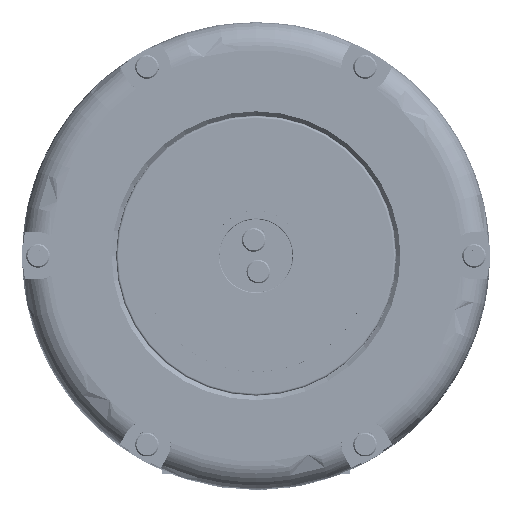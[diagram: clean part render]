
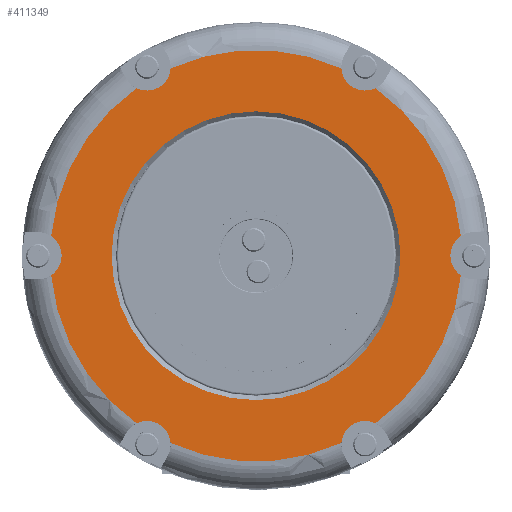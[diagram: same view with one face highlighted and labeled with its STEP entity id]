
A CAD part, top view. The second image highlights one B-rep face of the part: STEP entity #411349.
In plain terms, the highlighted planar face has unit normal (0, 0, 1).
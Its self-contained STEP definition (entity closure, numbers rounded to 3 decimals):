
#6227=FACE_BOUND('',#65021,.T.);
#24316=PLANE('',#441260);
#41247=FACE_OUTER_BOUND('',#65020,.T.);
#65020=EDGE_LOOP('',(#308043,#308044,#308045,#308046,#308047,#308048,#308049,
#308050,#308051,#308052,#308053,#308054));
#65021=EDGE_LOOP('',(#308055));
#179877=CIRCLE('',#441156,47.8);
#179880=CIRCLE('',#441160,47.8);
#179885=CIRCLE('',#441166,47.8);
#179888=CIRCLE('',#441170,47.8);
#179893=CIRCLE('',#441176,47.8);
#179896=CIRCLE('',#441180,47.8);
#179901=CIRCLE('',#441198,5.5);
#179941=CIRCLE('',#441256,33.54);
#179944=CIRCLE('',#441261,5.5);
#179945=CIRCLE('',#441262,5.5);
#179946=CIRCLE('',#441263,5.5);
#179947=CIRCLE('',#441264,5.5);
#179948=CIRCLE('',#441265,5.5);
#198181=VERTEX_POINT('',#615454);
#198182=VERTEX_POINT('',#615463);
#198187=VERTEX_POINT('',#615504);
#198188=VERTEX_POINT('',#615513);
#198193=VERTEX_POINT('',#615556);
#198194=VERTEX_POINT('',#615565);
#198199=VERTEX_POINT('',#615606);
#198200=VERTEX_POINT('',#615615);
#198205=VERTEX_POINT('',#615658);
#198206=VERTEX_POINT('',#615667);
#198211=VERTEX_POINT('',#615708);
#198212=VERTEX_POINT('',#615717);
#198254=VERTEX_POINT('',#615889);
#240114=EDGE_CURVE('',#198181,#198182,#179877,.T.);
#240121=EDGE_CURVE('',#198187,#198188,#179880,.T.);
#240130=EDGE_CURVE('',#198193,#198194,#179885,.T.);
#240137=EDGE_CURVE('',#198199,#198200,#179888,.T.);
#240146=EDGE_CURVE('',#198205,#198206,#179893,.T.);
#240153=EDGE_CURVE('',#198211,#198212,#179896,.T.);
#240184=EDGE_CURVE('',#198199,#198194,#179901,.T.);
#240234=EDGE_CURVE('',#198254,#198254,#179941,.T.);
#240239=EDGE_CURVE('',#198187,#198212,#179944,.T.);
#240240=EDGE_CURVE('',#198211,#198206,#179945,.T.);
#240241=EDGE_CURVE('',#198205,#198182,#179946,.T.);
#240242=EDGE_CURVE('',#198181,#198200,#179947,.T.);
#240243=EDGE_CURVE('',#198193,#198188,#179948,.T.);
#308043=ORIENTED_EDGE('',*,*,#240239,.T.);
#308044=ORIENTED_EDGE('',*,*,#240153,.F.);
#308045=ORIENTED_EDGE('',*,*,#240240,.T.);
#308046=ORIENTED_EDGE('',*,*,#240146,.F.);
#308047=ORIENTED_EDGE('',*,*,#240241,.T.);
#308048=ORIENTED_EDGE('',*,*,#240114,.F.);
#308049=ORIENTED_EDGE('',*,*,#240242,.T.);
#308050=ORIENTED_EDGE('',*,*,#240137,.F.);
#308051=ORIENTED_EDGE('',*,*,#240184,.T.);
#308052=ORIENTED_EDGE('',*,*,#240130,.F.);
#308053=ORIENTED_EDGE('',*,*,#240243,.T.);
#308054=ORIENTED_EDGE('',*,*,#240121,.F.);
#308055=ORIENTED_EDGE('',*,*,#240234,.F.);
#411349=ADVANCED_FACE('',(#41247,#6227),#24316,.T.);
#441156=AXIS2_PLACEMENT_3D('',#615464,#495006,#495007);
#441160=AXIS2_PLACEMENT_3D('',#615514,#495014,#495015);
#441166=AXIS2_PLACEMENT_3D('',#615566,#495026,#495027);
#441170=AXIS2_PLACEMENT_3D('',#615616,#495034,#495035);
#441176=AXIS2_PLACEMENT_3D('',#615668,#495046,#495047);
#441180=AXIS2_PLACEMENT_3D('',#615718,#495054,#495055);
#441198=AXIS2_PLACEMENT_3D('',#615795,#495114,#495115);
#441256=AXIS2_PLACEMENT_3D('',#615890,#495240,#495241);
#441260=AXIS2_PLACEMENT_3D('',#615898,#495250,#495251);
#441261=AXIS2_PLACEMENT_3D('',#615899,#495252,#495253);
#441262=AXIS2_PLACEMENT_3D('',#615900,#495254,#495255);
#441263=AXIS2_PLACEMENT_3D('',#615901,#495256,#495257);
#441264=AXIS2_PLACEMENT_3D('',#615902,#495258,#495259);
#441265=AXIS2_PLACEMENT_3D('',#615903,#495260,#495261);
#495006=DIRECTION('center_axis',(0.,0.,-1.));
#495007=DIRECTION('ref_axis',(0.,-1.,0.));
#495014=DIRECTION('center_axis',(0.,0.,-1.));
#495015=DIRECTION('ref_axis',(0.,-1.,0.));
#495026=DIRECTION('center_axis',(0.,0.,-1.));
#495027=DIRECTION('ref_axis',(0.,-1.,0.));
#495034=DIRECTION('center_axis',(0.,0.,-1.));
#495035=DIRECTION('ref_axis',(0.,-1.,0.));
#495046=DIRECTION('center_axis',(0.,0.,-1.));
#495047=DIRECTION('ref_axis',(0.,-1.,0.));
#495054=DIRECTION('center_axis',(0.,0.,-1.));
#495055=DIRECTION('ref_axis',(0.,-1.,0.));
#495114=DIRECTION('center_axis',(0.,0.,-1.));
#495115=DIRECTION('ref_axis',(1.,0.,0.));
#495240=DIRECTION('center_axis',(0.,0.,1.));
#495241=DIRECTION('ref_axis',(-1.,0.,0.));
#495250=DIRECTION('center_axis',(0.,0.,1.));
#495251=DIRECTION('ref_axis',(0.,1.,0.));
#495252=DIRECTION('center_axis',(0.,0.,-1.));
#495253=DIRECTION('ref_axis',(1.,0.,0.));
#495254=DIRECTION('center_axis',(0.,0.,-1.));
#495255=DIRECTION('ref_axis',(1.,0.,0.));
#495256=DIRECTION('center_axis',(0.,0.,-1.));
#495257=DIRECTION('ref_axis',(1.,0.,0.));
#495258=DIRECTION('center_axis',(0.,0.,-1.));
#495259=DIRECTION('ref_axis',(1.,0.,0.));
#495260=DIRECTION('center_axis',(0.,0.,-1.));
#495261=DIRECTION('ref_axis',(1.,0.,0.));
#615454=CARTESIAN_POINT('',(-27.744,-38.925,98.5));
#615463=CARTESIAN_POINT('',(-47.582,-4.565,98.5));
#615464=CARTESIAN_POINT('Origin',(0.,0.,98.5));
#615504=CARTESIAN_POINT('',(27.744,38.925,98.5));
#615513=CARTESIAN_POINT('',(47.582,4.565,98.5));
#615514=CARTESIAN_POINT('Origin',(0.,0.,98.5));
#615556=CARTESIAN_POINT('',(47.582,-4.565,98.5));
#615565=CARTESIAN_POINT('',(27.744,-38.925,98.5));
#615566=CARTESIAN_POINT('Origin',(0.,0.,98.5));
#615606=CARTESIAN_POINT('',(19.838,-43.489,98.5));
#615615=CARTESIAN_POINT('',(-19.838,-43.489,98.5));
#615616=CARTESIAN_POINT('Origin',(0.,0.,98.5));
#615658=CARTESIAN_POINT('',(-47.582,4.565,98.5));
#615667=CARTESIAN_POINT('',(-27.744,38.925,98.5));
#615668=CARTESIAN_POINT('Origin',(0.,0.,98.5));
#615708=CARTESIAN_POINT('',(-19.838,43.489,98.5));
#615717=CARTESIAN_POINT('',(19.838,43.489,98.5));
#615718=CARTESIAN_POINT('Origin',(0.,0.,98.5));
#615795=CARTESIAN_POINT('Origin',(25.325,-43.864,98.5));
#615889=CARTESIAN_POINT('',(33.54,0.,98.5));
#615890=CARTESIAN_POINT('Origin',(0.,0.,98.5));
#615898=CARTESIAN_POINT('Origin',(0.,0.,98.5));
#615899=CARTESIAN_POINT('Origin',(25.325,43.864,98.5));
#615900=CARTESIAN_POINT('Origin',(-25.325,43.864,98.5));
#615901=CARTESIAN_POINT('Origin',(-50.65,0.,98.5));
#615902=CARTESIAN_POINT('Origin',(-25.325,-43.864,98.5));
#615903=CARTESIAN_POINT('Origin',(50.65,0.,98.5));
